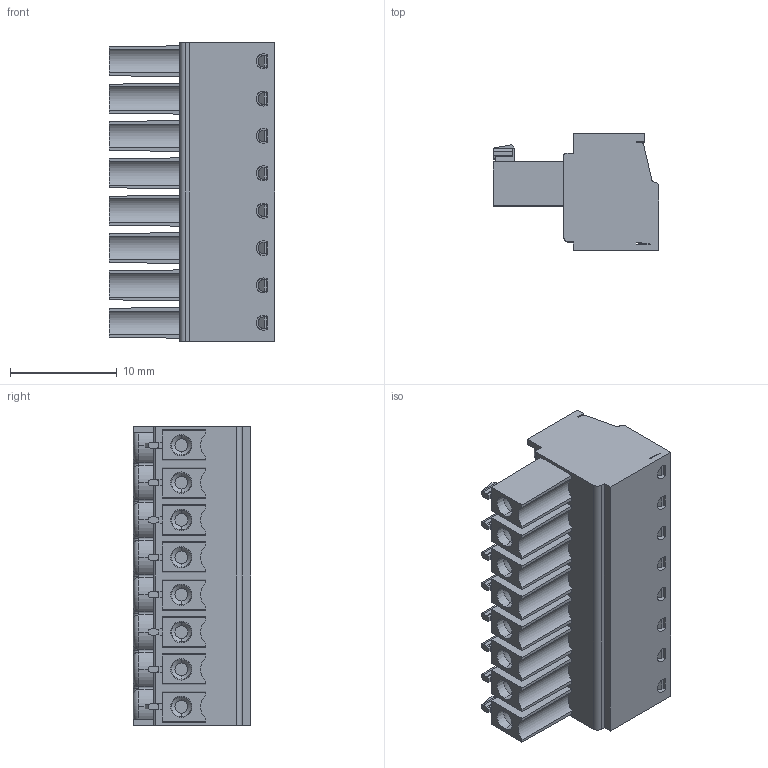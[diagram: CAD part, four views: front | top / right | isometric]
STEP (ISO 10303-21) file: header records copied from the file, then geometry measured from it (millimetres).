
FILE_DESCRIPTION (( 'STEP AP214' ), '1' );
FILE_NAME ('110-A-111-08.STEP', '2007-09-25T06:20:27', ( ' ' ), ( '' ), 'SwSTEP 2.0', 'SolidWorks 2007', '' );
FILE_SCHEMA (( 'AUTOMOTIVE_DESIGN' ));
Length unit declared in the file: millimetre
Products named in the file (1): 110-A-111-08
Bounding box: 15.5 x 11 x 28 mm (x, y, z)
Volume: 2757.5 mm3; surface area: 2887.8 mm2
Topology: 1 solids, 7 shells, 1110 faces, 2832 edges, 1800 vertices
Faces by surface type: plane 622, cylinder 250, cone 120, torus 62, bspline 56
Entity records: 35430 total; most frequent: CARTESIAN_POINT 8811, ORIENTED_EDGE 5664, DIRECTION 5386, EDGE_CURVE 2832, AXIS2_PLACEMENT_3D 1801, VERTEX_POINT 1800, LINE 1784, VECTOR 1784
